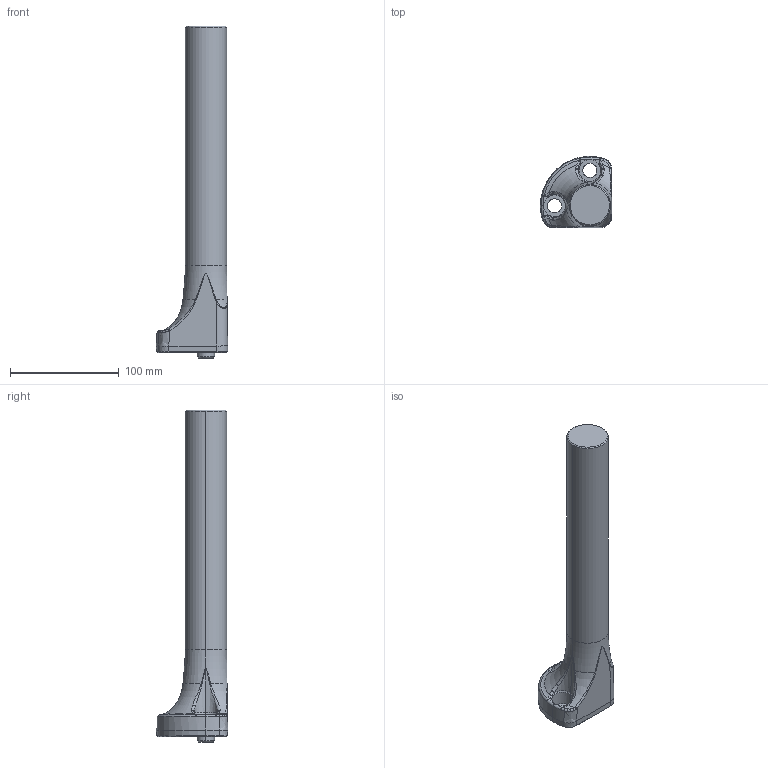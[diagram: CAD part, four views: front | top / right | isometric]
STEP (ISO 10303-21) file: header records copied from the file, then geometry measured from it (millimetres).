
FILE_DESCRIPTION(('CATIA V5 STEP Exchange'),'2;1');
FILE_NAME('C:\Users\Utente\Desktop\IO LAVORO\3D X SITO CF\ULTIMI CATALOGO VERDE\3D files 722\722-02+300.stp','2020-11-14T10:03:48+00:00',('none'),('none'),'CATIA Version 5 Release 20 GA (IN-10)','CATIA V5 STEP AP203','none');
FILE_SCHEMA(('CONFIG_CONTROL_DESIGN'));
Length unit declared in the file: millimetre
Products named in the file (1): 722-02+300
Bounding box: 65.5 x 65.44 x 305 mm (x, y, z)
Volume: 404867.2 mm3; surface area: 47395.9 mm2
Topology: 1 solids, 1 shells, 118 faces, 326 edges, 211 vertices
Faces by surface type: bspline 48, cylinder 18, torus 18, plane 17, cone 13, sphere 4
Entity records: 5635 total; most frequent: CARTESIAN_POINT 3273, ORIENTED_EDGE 652, EDGE_CURVE 326, DIRECTION 250, VERTEX_POINT 211, B_SPLINE_CURVE_WITH_KNOTS 147, AXIS2_PLACEMENT_3D 135, EDGE_LOOP 123
